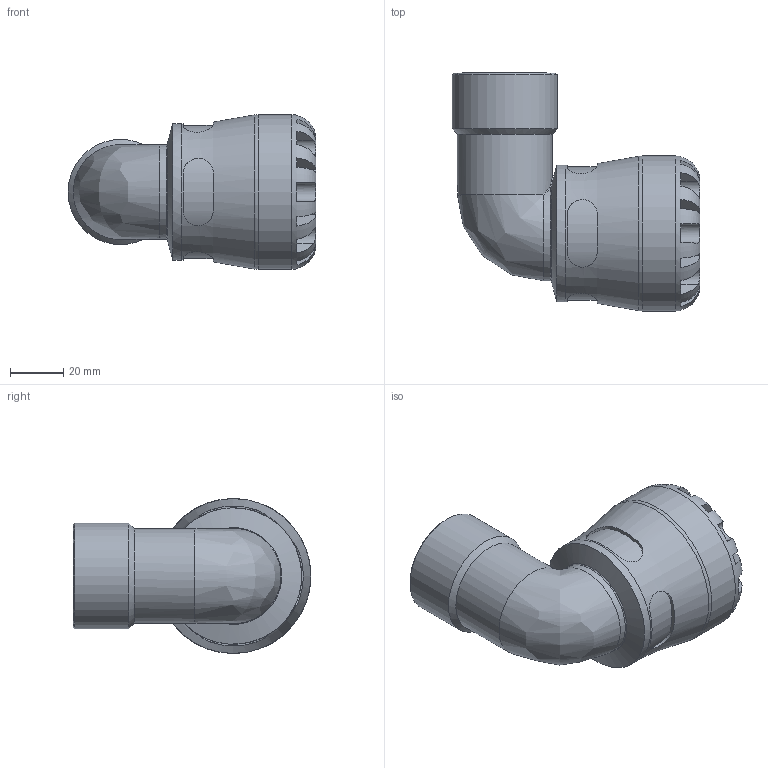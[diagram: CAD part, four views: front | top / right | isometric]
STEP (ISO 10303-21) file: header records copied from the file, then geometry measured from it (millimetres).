
FILE_DESCRIPTION(/* description */ ('PLASSON 90° ELBOW WITH FEMALE INTEGRAL BRASS 32X1" SERIES 1'),/* implementation_level */ '2;1');
FILE_NAME(/* name */ 'C:\Dropbox\KIMPROJECTS-Inventor\99-16-3568-Processing\1076\107600032010_197600032010.ipt.step',/* time_stamp */ '2017-05-18T12:03:28+03:00',/* author */ ('KIM'),/* organization */ (''),/* preprocessor_version */ 'ST-DEVELOPER v15.6',/* originating_system */ 'Autodesk Inventor 2015',/* authorisation */ '');
FILE_SCHEMA (('AUTOMOTIVE_DESIGN { 1 0 10303 214 3 1 1 }'));
Length unit declared in the file: millimetre
Products named in the file (1): 107600032010_197600032010
Bounding box: 92.69 x 89 x 58 mm (x, y, z)
Volume: 111077.2 mm3; surface area: 34076.9 mm2
Topology: 1 solids, 1 shells, 113 faces, 280 edges, 174 vertices
Faces by surface type: plane 60, cylinder 37, bspline 6, cone 5, torus 5
Full cylindrical faces by diameter (mm): 27.262 x2, 30.291 x1, 32 x1, 35.44 x1, 39.378 x1, 51.04 x1, 58 x1
Entity records: 4423 total; most frequent: CARTESIAN_POINT 1787, ORIENTED_EDGE 510, DIRECTION 502, EDGE_CURVE 255, AXIS2_PLACEMENT_3D 211, VERTEX_POINT 167, EDGE_LOOP 138, STYLED_ITEM 114
